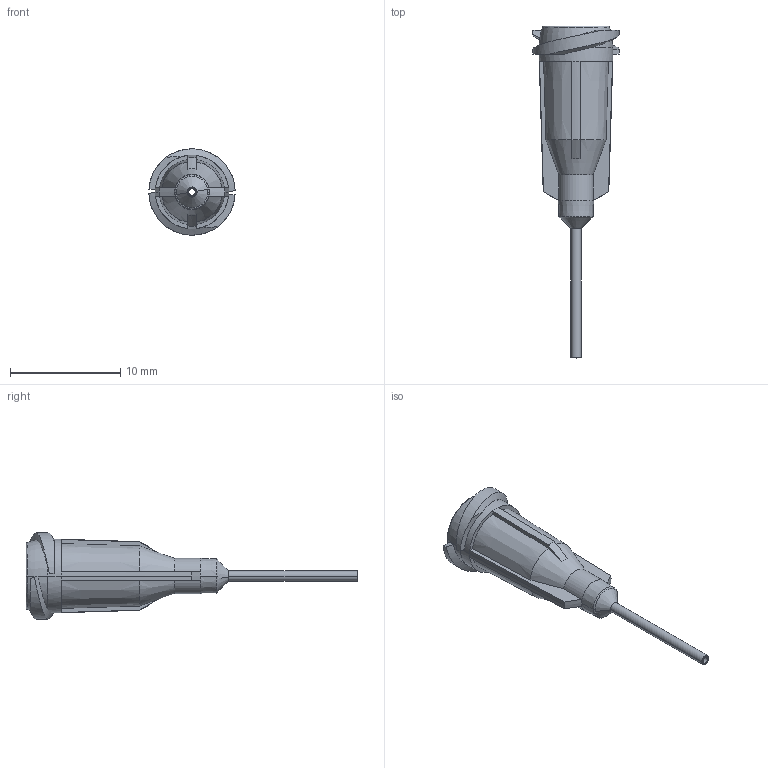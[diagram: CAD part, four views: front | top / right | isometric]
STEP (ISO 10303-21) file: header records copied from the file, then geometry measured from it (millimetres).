
FILE_DESCRIPTION (( 'STEP AP214' ), '1' );
FILE_NAME ('NORDSONEFD-7018161 TIP 20GA GP 023 X 1-2 PK.STEP', '2018-12-13T20:24:40', ( '' ), ( '' ), 'SwSTEP 2.0', 'SolidWorks 2018', '' );
FILE_SCHEMA (( 'AUTOMOTIVE_DESIGN' ));
Length unit declared in the file: inch
Products named in the file (1): NORDSONEFD-7018161 TIP 20GA GP 023 X 1-2 PK
Bounding box: 7.82 x 30.07 x 7.82 mm (x, y, z)
Volume: 267.3 mm3; surface area: 604 mm2
Topology: 1 solids, 1 shells, 98 faces, 232 edges, 140 vertices
Faces by surface type: plane 26, torus 22, cone 22, cylinder 16, bspline 12
Entity records: 3347 total; most frequent: CARTESIAN_POINT 1005, DIRECTION 468, ORIENTED_EDGE 464, EDGE_CURVE 232, AXIS2_PLACEMENT_3D 205, VERTEX_POINT 140, CIRCLE 118, EDGE_LOOP 104
